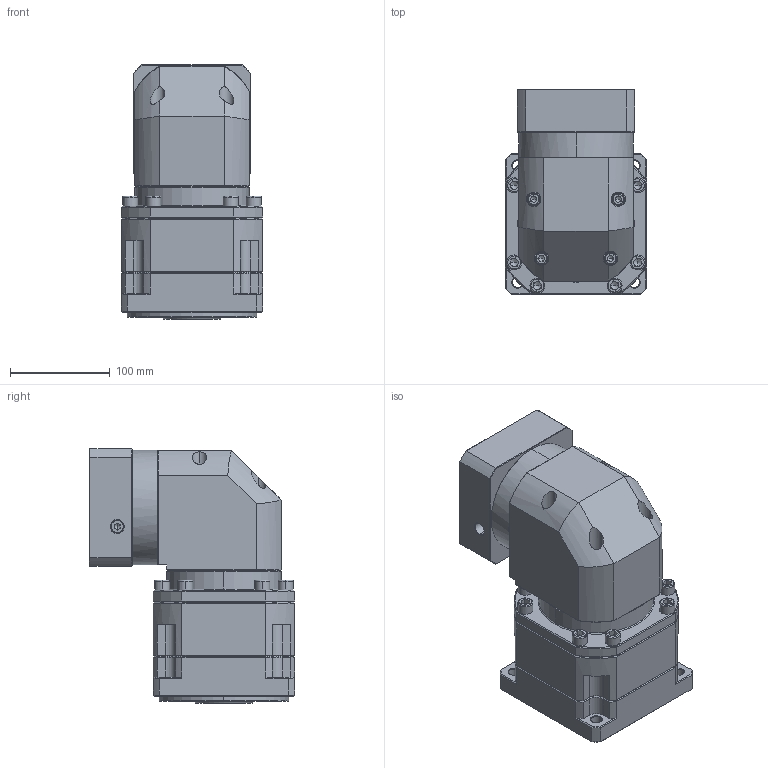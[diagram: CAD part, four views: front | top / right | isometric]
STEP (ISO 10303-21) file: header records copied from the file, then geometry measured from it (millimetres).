
FILE_DESCRIPTION (( 'STEP AP214' ), '1' );
FILE_NAME ('ZBR142A-K35-L2-P2-22-110-130-M8.step', '2023-09-02T08:12:46', ( '' ), ( '' ), 'SwSTEP 2.0', 'SolidWorks 2016', '' );
FILE_SCHEMA (( 'AUTOMOTIVE_DESIGN' ));
Length unit declared in the file: millimetre
Products named in the file (1): ZBR142A-K35-L2-P2-22-110-130-M8
Bounding box: 142 x 205.9 x 255.2 mm (x, y, z)
Volume: 4211337.9 mm3; surface area: 311530.1 mm2
Topology: 6 solids, 6 shells, 2531 faces, 6575 edges, 4169 vertices
Faces by surface type: plane 1225, cylinder 465, bspline 404, cone 393, torus 44
Entity records: 130391 total; most frequent: CARTESIAN_POINT 43829, ORIENTED_EDGE 13046, DIRECTION 10711, EDGE_CURVE 6523, LINE 4215, VECTOR 4215, VERTEX_POINT 4169, AXIS2_PLACEMENT_3D 3248
